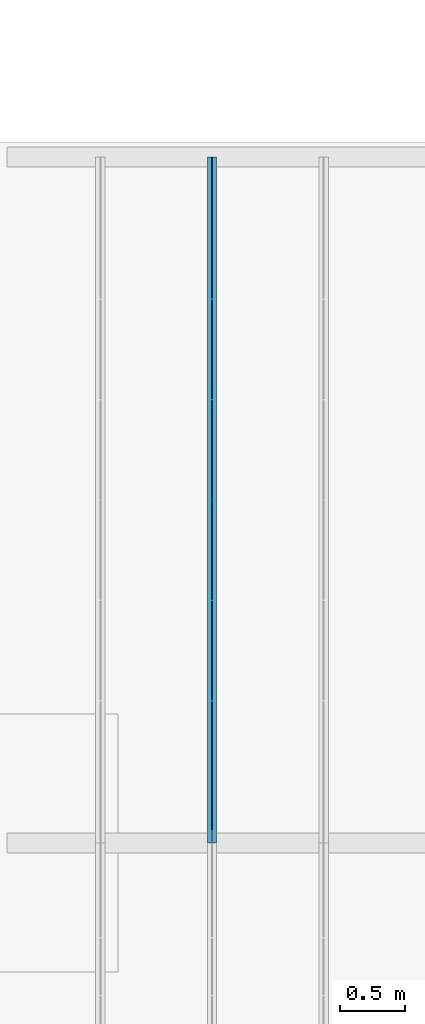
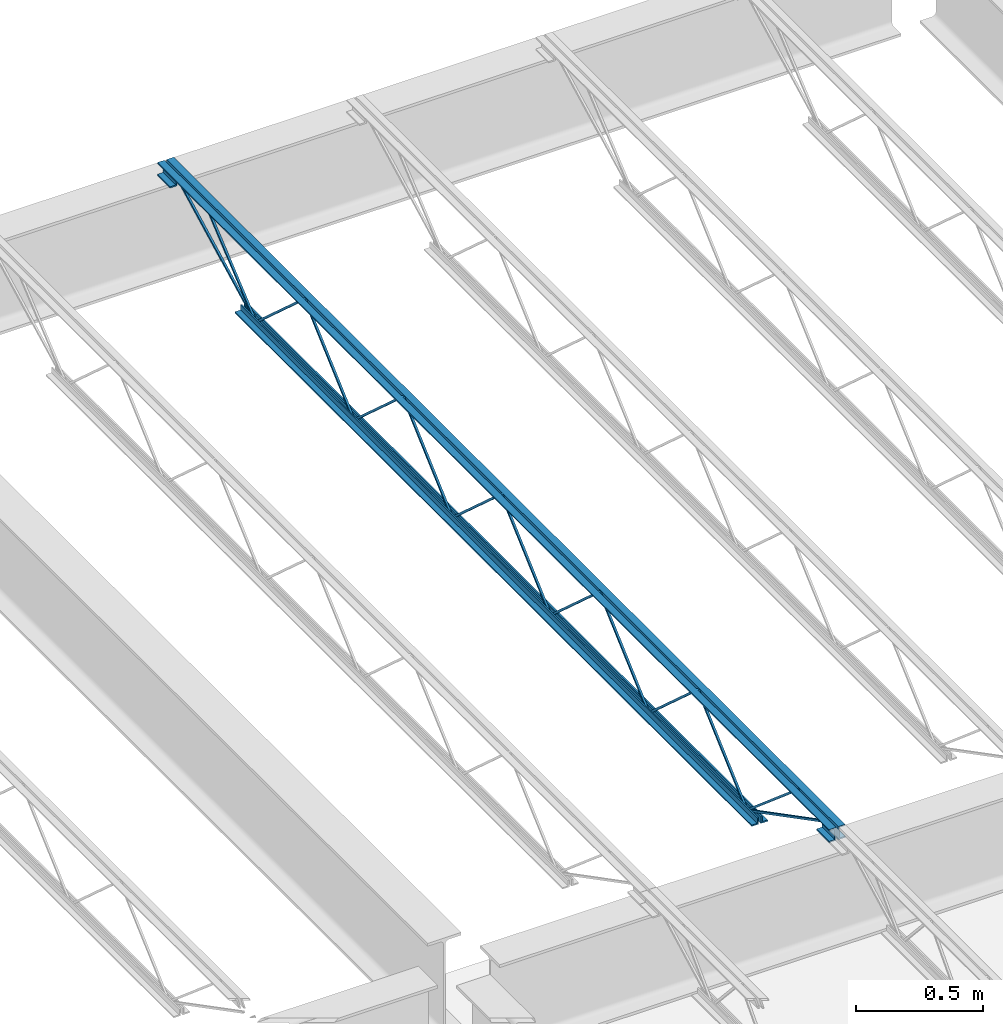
# One storey, part 61 of 75: 1 beam.
"""IFC2X3 building model written with IfcOpenShell, lengths in metres."""

from ifc_helpers import new_model, entity, si_unit, converted_unit, frame, origin, place, context, project, spatial, face_set, surface_model, element, save


model = new_model("IFC2X3")

# Units and contexts
model_context = context("Model", 3, precision=1e-09, world=origin())
plan_context = context("Plan", 3, precision=1e-09, world=origin())
ifc_project = project(units=[si_unit("LENGTHUNIT", "METRE"), si_unit("AREAUNIT", "SQUARE_METRE"), si_unit("VOLUMEUNIT", "CUBIC_METRE"), converted_unit("PLANEANGLEUNIT", "DEGREE", entity("IfcRatioMeasure", 0.01745329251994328), si_unit("PLANEANGLEUNIT", "RADIAN"), dimensions=[0, 0, 0, 0, 0, 0, 0]), si_unit("TIMEUNIT", "SECOND")], contexts=[model_context, plan_context])

# Site, building, storey
site_placement = place(None, origin())
site = spatial("IfcSite", under=ifc_project, at=site_placement, Name="Default", CompositionType="ELEMENT")
building_placement = place(site_placement, origin())
building = spatial("IfcBuilding", under=site, at=building_placement, CompositionType="ELEMENT")
storey_placement = place(building_placement, origin())
storey = spatial("IfcBuildingStorey", under=building, at=storey_placement, Name="First Floor", CompositionType="ELEMENT", Elevation=-3.531500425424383e-13)

# Beam
beam_placement = place(storey_placement, frame((-18.37007499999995, 44.78049999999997, 4.112000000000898), z_axis=(0.0, 0.0, 1.0), x_axis=(-1.0, 0.0, 0.0)))
element("IfcBeam", 1, at=beam_placement, inside=storey, Name="M_K-Series Bar Joist-Rod Web:14K1:14K1", ObjectType="M_K-Series Bar Joist-Rod Web:14K1", context=model_context, shape_type="SurfaceModel", body=[
    surface_model("IfcFaceBasedSurfaceModel", [(-0.0320000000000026, -2.266000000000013, 0.01110000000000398), (-0.04150000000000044, -2.266000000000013, 0.01110000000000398), (-0.04150000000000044, -2.266000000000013, 0.001600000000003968), (-0.0320000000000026, -2.266000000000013, 0.001600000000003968), (-0.04150000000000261, -2.264645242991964, 0.01110000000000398), (-0.0320000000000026, -2.264645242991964, 0.01110000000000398), (-0.04150000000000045, -2.26100475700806, 0.001600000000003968), (-0.04149999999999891, -1.878854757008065, 0.3449000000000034), (-0.04149999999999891, -1.876145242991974, 0.3449000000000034), (-0.04149999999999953, -1.493995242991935, 0.001600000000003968), (-0.04149999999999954, -1.489000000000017, 0.001600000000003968), (-0.04149999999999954, -1.489000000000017, 0.01110000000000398), (-0.04149999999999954, -1.490354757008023, 0.01110000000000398), (-0.04150000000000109, -1.872504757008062, 0.3544000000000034), (-0.04150000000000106, -1.882495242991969, 0.3544000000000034), (-0.03200000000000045, -2.26100475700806, 0.001600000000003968), (-0.03200000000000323, -1.878854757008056, 0.3449000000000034), (-0.03200000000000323, -1.876145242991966, 0.3449000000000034), (-0.0320000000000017, -1.493995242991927, 0.001600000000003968), (-0.03200000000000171, -1.489000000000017, 0.001600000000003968), (-0.03200000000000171, -1.489000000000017, 0.01110000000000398), (-0.0320000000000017, -1.490354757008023, 0.01110000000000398), (-0.03200000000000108, -1.872504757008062, 0.3544000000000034), (-0.03200000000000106, -1.882495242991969, 0.3544000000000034), (-0.03200000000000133, -3.04300000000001, 0.01110000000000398), (-0.04149999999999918, -3.04300000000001, 0.01110000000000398), (-0.04149999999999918, -3.04300000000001, 0.001600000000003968), (-0.03200000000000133, -3.04300000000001, 0.001600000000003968), (-0.04150000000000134, -3.041645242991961, 0.01110000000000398), (-0.03200000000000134, -3.041645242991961, 0.01110000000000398), (-0.04149999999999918, -3.038004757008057, 0.001600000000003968), (-0.0414999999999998, -2.655854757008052, 0.3449000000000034), (-0.04149999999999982, -2.653145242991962, 0.3449000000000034), (-0.04150000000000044, -2.270995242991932, 0.001600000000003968), (-0.04149999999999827, -2.266000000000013, 0.01110000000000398), (-0.04149999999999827, -2.26735475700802, 0.01110000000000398), (-0.04149999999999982, -2.649504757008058, 0.3544000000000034), (-0.0414999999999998, -2.659495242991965, 0.3544000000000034), (-0.03199999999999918, -3.038004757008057, 0.001600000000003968), (-0.03200000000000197, -2.655854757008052, 0.3449000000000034), (-0.03200000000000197, -2.653145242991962, 0.3449000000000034), (-0.03200000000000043, -2.270995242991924, 0.001600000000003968), (-0.03200000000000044, -2.266000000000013, 0.001600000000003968), (-0.0320000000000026, -2.26735475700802, 0.01110000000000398), (-0.03200000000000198, -2.649504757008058, 0.3544000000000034), (-0.03200000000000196, -2.659495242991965, 0.3544000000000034), (-0.03200000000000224, -3.820000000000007, 0.01110000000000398), (-0.04150000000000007, -3.820000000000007, 0.01110000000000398), (-0.04150000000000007, -3.820000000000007, 0.001600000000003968), (-0.03200000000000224, -3.820000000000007, 0.001600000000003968), (-0.04150000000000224, -3.818645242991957, 0.01110000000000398), (-0.03200000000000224, -3.818645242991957, 0.01110000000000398), (-0.04150000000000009, -3.815004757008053, 0.001600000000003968), (-0.0415000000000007, -3.432854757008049, 0.3449000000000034), (-0.04150000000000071, -3.430145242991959, 0.3449000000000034), (-0.04149999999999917, -3.04799524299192, 0.001600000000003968), (-0.04149999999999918, -3.043000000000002, 0.001600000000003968), (-0.04149999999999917, -3.044354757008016, 0.01110000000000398), (-0.04150000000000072, -3.426504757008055, 0.3544000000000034), (-0.0415000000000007, -3.436495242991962, 0.3544000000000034), (-0.03200000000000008, -3.815004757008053, 0.001600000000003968), (-0.03200000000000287, -3.432854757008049, 0.3449000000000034), (-0.03200000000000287, -3.430145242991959, 0.3449000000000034), (-0.03200000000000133, -3.04799524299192, 0.001600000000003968), (-0.03200000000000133, -3.043000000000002, 0.01110000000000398), (-0.03200000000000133, -3.044354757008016, 0.01110000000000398), (-0.03200000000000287, -3.426504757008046, 0.3544000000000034), (-0.03200000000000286, -3.436495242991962, 0.3544000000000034), (-0.03200000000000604, -1.489000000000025, 0.01109999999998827), (-0.04150000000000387, -1.489000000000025, 0.01109999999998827), (-0.04150000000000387, -1.489000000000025, 0.001599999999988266), (-0.03200000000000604, -1.489000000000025, 0.001599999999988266), (-0.04150000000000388, -1.487645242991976, 0.01109999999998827), (-0.03200000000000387, -1.487645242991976, 0.01109999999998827), (-0.04150000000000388, -1.484004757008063, 0.001599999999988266), (-0.04150000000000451, -1.101854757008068, 0.3448999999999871), (-0.04150000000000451, -1.099145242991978, 0.3448999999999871), (-0.04150000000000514, -0.7169952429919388, 0.001599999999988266), (-0.04150000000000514, -0.7120000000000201, 0.001599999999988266), (-0.04150000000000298, -0.7120000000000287, 0.01109999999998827), (-0.04150000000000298, -0.7133547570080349, 0.01109999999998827), (-0.04150000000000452, -1.095504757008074, 0.3543999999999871), (-0.0415000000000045, -1.10549524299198, 0.3543999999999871), (-0.03200000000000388, -1.484004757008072, 0.001599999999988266), (-0.0320000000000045, -1.101854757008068, 0.3448999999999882), (-0.0320000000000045, -1.099145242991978, 0.3448999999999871), (-0.03200000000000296, -0.7169952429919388, 0.001599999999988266), (-0.03200000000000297, -0.7120000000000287, 0.001599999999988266), (-0.0320000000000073, -0.7120000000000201, 0.01109999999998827), (-0.03200000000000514, -0.7133547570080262, 0.01109999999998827), (-0.03200000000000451, -1.095504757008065, 0.3543999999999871), (-0.0320000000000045, -1.105495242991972, 0.3543999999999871), (-0.03200000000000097, -4.597000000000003, 0.01110000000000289), (-0.04149999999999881, -4.597000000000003, 0.01110000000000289), (-0.04149999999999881, -4.597000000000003, 0.001600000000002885), (-0.03200000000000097, -4.597000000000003, 0.001600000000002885), (-0.04150000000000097, -4.595645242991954, 0.01110000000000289), (-0.03200000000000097, -4.595645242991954, 0.01110000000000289), (-0.04149999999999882, -4.592004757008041, 0.001600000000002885), (-0.04149999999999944, -4.209854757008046, 0.3449000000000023), (-0.04149999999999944, -4.207145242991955, 0.3449000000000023), (-0.04150000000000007, -3.824995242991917, 0.001600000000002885), (-0.04150000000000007, -3.819999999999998, 0.001600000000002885), (-0.04149999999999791, -3.820000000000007, 0.01110000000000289), (-0.04149999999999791, -3.821354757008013, 0.01110000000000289), (-0.04149999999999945, -4.203504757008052, 0.3544000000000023), (-0.04149999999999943, -4.213495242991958, 0.3544000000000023), (-0.03199999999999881, -4.592004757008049, 0.001600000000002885), (-0.0320000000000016, -4.209854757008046, 0.3449000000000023), (-0.0320000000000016, -4.207145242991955, 0.3449000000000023), (-0.03200000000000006, -3.824995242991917, 0.001600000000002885), (-0.03200000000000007, -3.820000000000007, 0.001600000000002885), (-0.03200000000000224, -3.819999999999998, 0.01110000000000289), (-0.03200000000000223, -3.821354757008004, 0.01110000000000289), (-0.03200000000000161, -4.203504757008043, 0.3544000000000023), (-0.03200000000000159, -4.213495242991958, 0.3544000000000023), (-0.04150000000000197, 0.0, 0.3559999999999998), (-0.07350000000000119, 0.0, 0.3559999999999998), (-0.07350000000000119, 0.0, 0.349499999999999), (-0.04800000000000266, 0.0, 0.349499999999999), (-0.04800000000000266, 0.0, 0.3239999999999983), (-0.04150000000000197, 0.0, 0.3239999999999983), (-0.03200000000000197, 0.0, 0.3559999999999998), (-0.03200000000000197, 0.0, 0.3239999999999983), (-0.02550000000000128, 0.0, 0.3239999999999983), (-0.02550000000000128, 0.0, 0.349499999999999), (0.0, 0.0, 0.349499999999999), (0.0, 0.0, 0.3559999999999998), (-0.04150000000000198, -5.309000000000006, 0.3559999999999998), (-0.0735000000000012, -5.309000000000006, 0.3559999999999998), (-0.0735000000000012, -5.309000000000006, 0.349499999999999), (-0.04800000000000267, -5.309000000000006, 0.349499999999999), (-0.04800000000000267, -5.309000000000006, 0.3239999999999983), (-0.04150000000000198, -5.309000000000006, 0.3239999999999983), (-0.03200000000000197, -5.309000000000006, 0.3559999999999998), (-0.03200000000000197, -5.309000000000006, 0.3239999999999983), (-0.02550000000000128, -5.309000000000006, 0.3239999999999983), (-0.02550000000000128, -5.309000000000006, 0.349499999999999), (0.0, -5.309000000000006, 0.349499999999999), (0.0, -5.309000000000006, 0.3559999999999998), (-0.03200000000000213, -5.20900000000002, 0.2924999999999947), (0.0, -5.20900000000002, 0.2924999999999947), (0.0, -5.20900000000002, 0.2989999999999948), (-0.02550000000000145, -5.20900000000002, 0.2989999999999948), (-0.02550000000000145, -5.20900000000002, 0.3239999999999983), (-0.03200000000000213, -5.20900000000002, 0.3239999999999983), (-0.07350000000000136, -5.20900000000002, 0.2924999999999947), (-0.04150000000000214, -5.20900000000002, 0.2924999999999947), (-0.04150000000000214, -5.20900000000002, 0.3239999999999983), (-0.04800000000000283, -5.20900000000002, 0.3239999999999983), (-0.04800000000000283, -5.20900000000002, 0.2989999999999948), (-0.07350000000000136, -5.20900000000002, 0.2989999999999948), (-0.03200000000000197, -5.309000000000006, 0.2924999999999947), (0.0, -5.309000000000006, 0.2924999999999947), (0.0, -5.309000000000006, 0.2989999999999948), (-0.02550000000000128, -5.309000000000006, 0.2989999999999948), (-0.0735000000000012, -5.309000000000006, 0.2924999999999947), (-0.04150000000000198, -5.309000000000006, 0.2924999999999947), (-0.04800000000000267, -5.309000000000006, 0.2989999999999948), (-0.0735000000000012, -5.309000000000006, 0.2989999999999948), (-0.04150000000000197, 0.0, 0.2924999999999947), (-0.04800000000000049, 0.0, 0.3239999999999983), (-0.04800000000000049, 0.0, 0.2989999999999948), (-0.07350000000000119, 0.0, 0.2989999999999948), (-0.07350000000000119, 0.0, 0.2924999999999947), (-0.03200000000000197, 0.0, 0.2924999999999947), (0.0, 0.0, 0.2924999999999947), (0.0, 0.0, 0.2989999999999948), (-0.02550000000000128, 0.0, 0.2989999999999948), (-0.04150000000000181, -0.1000000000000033, 0.2924999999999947), (-0.04150000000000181, -0.1000000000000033, 0.3239999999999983), (-0.04800000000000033, -0.1000000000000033, 0.3239999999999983), (-0.04800000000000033, -0.1000000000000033, 0.2989999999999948), (-0.07350000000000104, -0.1000000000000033, 0.2989999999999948), (-0.07350000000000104, -0.1000000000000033, 0.2924999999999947), (-0.03200000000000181, -0.1000000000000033, 0.2924999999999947), (0.0, -0.1000000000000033, 0.2924999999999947), (0.0, -0.1000000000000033, 0.2989999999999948), (-0.02550000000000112, -0.1000000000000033, 0.2989999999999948), (-0.02550000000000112, -0.1000000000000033, 0.3239999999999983), (-0.03200000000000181, -0.1000000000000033, 0.3239999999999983), (-0.04150000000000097, -0.6119999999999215, 0.0), (-0.04150000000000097, -0.6119999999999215, 0.03199999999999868), (-0.04800000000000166, -0.6119999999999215, 0.03199999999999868), (-0.04800000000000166, -0.6119999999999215, 0.006499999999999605), (-0.07350000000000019, -0.6119999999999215, 0.006499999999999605), (-0.07350000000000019, -0.6119999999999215, 0.0), (-0.03200000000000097, -0.6119999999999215, 0.0), (0.0, -0.6119999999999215, 0.0), (0.0, -0.6119999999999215, 0.006499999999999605), (-0.02550000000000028, -0.6119999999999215, 0.006499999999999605), (-0.02550000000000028, -0.6119999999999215, 0.03199999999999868), (-0.03200000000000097, -0.6119999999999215, 0.03199999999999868), (-0.04150000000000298, -4.696999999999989, 0.0), (-0.04150000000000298, -4.696999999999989, 0.03199999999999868), (-0.04800000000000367, -4.696999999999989, 0.03199999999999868), (-0.04800000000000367, -4.696999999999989, 0.006499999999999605), (-0.0735000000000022, -4.696999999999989, 0.006499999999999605), (-0.0735000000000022, -4.696999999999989, 0.0), (-0.03200000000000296, -4.696999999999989, 0.0), (0.0, -4.696999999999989, 0.0), (0.0, -4.696999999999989, 0.006499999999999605), (-0.02550000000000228, -4.696999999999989, 0.006499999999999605), (-0.02550000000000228, -4.696999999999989, 0.03199999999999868), (-0.03200000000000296, -4.696999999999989, 0.03199999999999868), (-0.03199999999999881, -4.594811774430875, 0.01056594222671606), (-0.04149999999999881, -4.594811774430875, 0.01056594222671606), (-0.04149999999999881, -4.599188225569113, 0.002134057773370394), (-0.03200000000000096, -4.599188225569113, 0.002134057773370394), (-0.0319999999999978, -5.207840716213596, 0.3287499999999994), (-0.0319999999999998, -5.308999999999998, 0.3287499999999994), (-0.0319999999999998, -5.308999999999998, 0.3192499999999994), (-0.03199999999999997, -5.210159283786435, 0.3192499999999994), (-0.04149999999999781, -5.210159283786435, 0.3192499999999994), (-0.04149999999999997, -5.207840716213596, 0.3287499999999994), (-0.04149999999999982, -5.308999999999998, 0.3287499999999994), (-0.04149999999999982, -5.309000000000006, 0.3192499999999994), (-0.03200000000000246, -5.005457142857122, 0.341700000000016), (-0.0415000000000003, -5.005457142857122, 0.341700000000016), (-0.0415000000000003, -5.005457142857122, 0.332200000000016), (-0.03200000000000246, -5.005457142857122, 0.332200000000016), (-0.04150000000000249, -4.991034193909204, 0.341700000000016), (-0.03200000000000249, -4.991034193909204, 0.341700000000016), (-0.04150000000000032, -4.994480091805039, 0.332200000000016), (-0.0414999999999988, -4.600045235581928, 0.002704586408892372), (-0.04150000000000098, -4.593954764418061, 0.009995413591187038), (-0.03200000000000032, -4.994480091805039, 0.332200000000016), (-0.03200000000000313, -4.600045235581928, 0.002704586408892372), (-0.03199999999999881, -4.593954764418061, 0.009995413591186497), (-0.03199999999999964, -0.09781177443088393, 0.3197840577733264), (-0.03200000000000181, -0.1021882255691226, 0.3282159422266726), (-0.04150000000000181, -0.1021882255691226, 0.3282159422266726), (-0.04149999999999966, -0.09781177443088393, 0.3197840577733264), (-0.03200000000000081, -0.7098117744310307, 0.002134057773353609), (-0.03200000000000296, -0.7141882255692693, 0.01056594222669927), (-0.04150000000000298, -0.7141882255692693, 0.01056594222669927), (-0.04150000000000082, -0.7098117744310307, 0.002134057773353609), (-0.0319999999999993, -0.3059055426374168, 0.3460340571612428), (-0.03200000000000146, -0.3120658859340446, 0.3532659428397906), (-0.04150000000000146, -0.3120658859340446, 0.3532659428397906), (-0.04149999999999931, -0.3059055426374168, 0.3460340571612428), (-0.03200000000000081, -0.7089198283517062, 0.002734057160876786), (-0.03200000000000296, -0.7150801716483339, 0.009965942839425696), (-0.04150000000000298, -0.7150801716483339, 0.009965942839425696), (-0.04150000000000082, -0.7089198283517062, 0.002734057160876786)], [face_set([[[0, 1, 2, 3]], [[1, 4, 5, 0]], [[2, 6, 7, 8, 9, 10, 11, 12, 13, 14, 4, 1]], [[3, 2, 6, 15]], [[0, 3, 15, 16, 17, 18, 19, 20, 21, 22, 23, 5]], [[4, 5, 23, 14]], [[15, 16, 7, 6]], [[14, 13, 22, 23]], [[16, 7, 8, 17]], [[13, 12, 21, 22]], [[17, 8, 9, 18]], [[20, 11, 10, 19]], [[12, 11, 20, 21]], [[18, 9, 10, 19]]]), face_set([[[24, 25, 26, 27]], [[25, 28, 29, 24]], [[26, 30, 31, 32, 33, 2, 34, 35, 36, 37, 28, 25]], [[27, 26, 30, 38]], [[24, 27, 38, 39, 40, 41, 42, 0, 43, 44, 45, 29]], [[28, 29, 45, 37]], [[38, 39, 31, 30]], [[37, 36, 44, 45]], [[39, 31, 32, 40]], [[36, 35, 43, 44]], [[40, 32, 33, 41]], [[0, 34, 2, 42]], [[35, 34, 0, 43]], [[41, 33, 2, 42]]]), face_set([[[46, 47, 48, 49]], [[47, 50, 51, 46]], [[48, 52, 53, 54, 55, 56, 25, 57, 58, 59, 50, 47]], [[49, 48, 52, 60]], [[46, 49, 60, 61, 62, 63, 27, 64, 65, 66, 67, 51]], [[50, 51, 67, 59]], [[60, 61, 53, 52]], [[59, 58, 66, 67]], [[61, 53, 54, 62]], [[58, 57, 65, 66]], [[62, 54, 55, 63]], [[64, 25, 56, 27]], [[57, 25, 64, 65]], [[63, 55, 56, 27]]]), face_set([[[68, 69, 70, 71]], [[69, 72, 73, 68]], [[70, 74, 75, 76, 77, 78, 79, 80, 81, 82, 72, 69]], [[71, 70, 74, 83]], [[68, 71, 83, 84, 85, 86, 87, 88, 89, 90, 91, 73]], [[72, 73, 91, 82]], [[83, 84, 75, 74]], [[82, 81, 90, 91]], [[84, 75, 76, 85]], [[81, 80, 89, 90]], [[85, 76, 77, 86]], [[88, 79, 78, 87]], [[80, 79, 88, 89]], [[86, 77, 78, 87]]]), face_set([[[92, 93, 94, 95]], [[93, 96, 97, 92]], [[94, 98, 99, 100, 101, 102, 103, 104, 105, 106, 96, 93]], [[95, 94, 98, 107]], [[92, 95, 107, 108, 109, 110, 111, 112, 113, 114, 115, 97]], [[96, 97, 115, 106]], [[107, 108, 99, 98]], [[106, 105, 114, 115]], [[108, 99, 100, 109]], [[105, 104, 113, 114]], [[109, 100, 101, 110]], [[112, 103, 102, 111]], [[104, 103, 112, 113]], [[110, 101, 102, 111]]]), face_set([[[116, 117, 118, 119, 120, 121]], [[122, 123, 124, 125, 126, 127]], [[128, 129, 130, 131, 132, 133]], [[134, 135, 136, 137, 138, 139]], [[121, 116, 128, 133]], [[120, 121, 133, 132]], [[119, 131, 132, 120]], [[118, 119, 131, 130]], [[117, 129, 130, 118]], [[116, 128, 129, 117]], [[127, 139, 134, 122]], [[126, 127, 139, 138]], [[125, 126, 138, 137]], [[124, 125, 137, 136]], [[123, 124, 136, 135]], [[122, 134, 135, 123]]]), face_set([[[140, 141, 142, 143, 144, 145]], [[146, 147, 148, 149, 150, 151]], [[152, 153, 154, 155, 136, 135]], [[156, 157, 133, 132, 158, 159]], [[145, 135, 152, 140]], [[144, 136, 135, 145]], [[143, 144, 136, 155]], [[142, 154, 155, 143]], [[141, 142, 154, 153]], [[140, 141, 153, 152]], [[151, 159, 156, 146]], [[150, 158, 159, 151]], [[149, 132, 158, 150]], [[148, 133, 132, 149]], [[147, 148, 133, 157]], [[146, 147, 157, 156]]]), face_set([[[160, 121, 161, 162, 163, 164]], [[165, 166, 167, 168, 124, 123]], [[169, 170, 171, 172, 173, 174]], [[175, 176, 177, 178, 179, 180]], [[164, 160, 169, 174]], [[163, 173, 174, 164]], [[162, 172, 173, 163]], [[161, 171, 172, 162]], [[121, 170, 171, 161]], [[160, 121, 170, 169]], [[123, 180, 175, 165]], [[124, 179, 180, 123]], [[168, 124, 179, 178]], [[167, 177, 178, 168]], [[166, 167, 177, 176]], [[165, 166, 176, 175]]]), face_set([[[181, 182, 183, 184, 185, 186]], [[187, 188, 189, 190, 191, 192]], [[193, 194, 195, 196, 197, 198]], [[199, 200, 201, 202, 203, 204]], [[186, 181, 193, 198]], [[185, 197, 198, 186]], [[184, 196, 197, 185]], [[183, 195, 196, 184]], [[182, 194, 195, 183]], [[181, 182, 194, 193]], [[192, 204, 199, 187]], [[191, 203, 204, 192]], [[190, 191, 203, 202]], [[189, 201, 202, 190]], [[188, 189, 201, 200]], [[187, 188, 200, 199]]]), face_set([[[205, 206, 207, 208]], [[208, 205, 209, 210, 211, 212]], [[207, 208, 212, 213]], [[206, 214, 215, 216, 213, 207]], [[205, 209, 214, 206]], [[210, 215, 216, 211]], [[213, 212, 211, 216]], [[209, 210, 215, 214]]]), face_set([[[217, 218, 219, 220]], [[218, 221, 222, 217]], [[219, 223, 224, 225, 221, 218]], [[220, 219, 223, 226]], [[217, 220, 226, 227, 228, 222]], [[228, 225, 224, 227]], [[221, 225, 228, 222]], [[226, 223, 224, 227]]]), face_set([[[229, 230, 231, 232]], [[233, 234, 235, 236]], [[232, 236, 233, 229]], [[231, 235, 236, 232]], [[230, 231, 235, 234]], [[229, 230, 234, 233]]]), face_set([[[237, 238, 239, 240]], [[241, 242, 243, 244]], [[240, 244, 241, 237]], [[239, 243, 244, 240]], [[238, 239, 243, 242]], [[237, 238, 242, 241]]])]),
])

save(model, "model.ifc")
